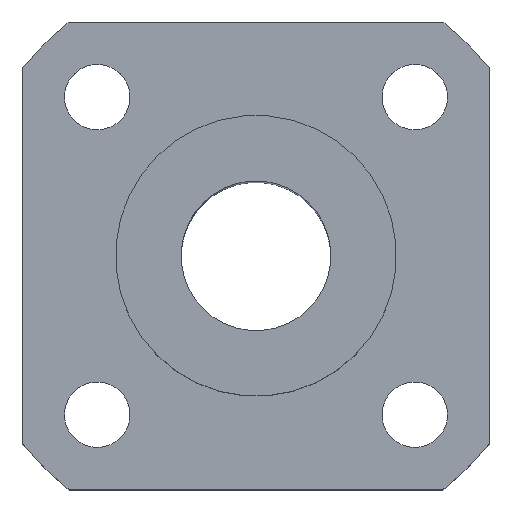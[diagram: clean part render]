
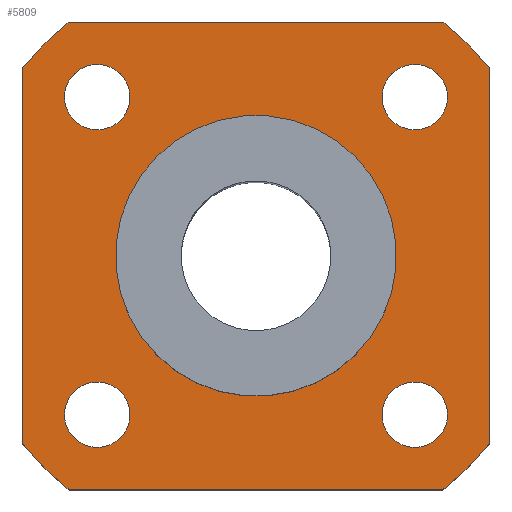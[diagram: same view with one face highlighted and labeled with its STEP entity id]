
A CAD part, top view. The second image highlights one B-rep face of the part: STEP entity #5809.
In plain terms, the highlighted planar face has unit normal (0, 0, 1).
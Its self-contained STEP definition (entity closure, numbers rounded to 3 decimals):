
#113=CIRCLE('',#6162,16.);
#114=CIRCLE('',#6164,16.);
#115=CIRCLE('',#6166,16.);
#125=CIRCLE('',#6182,7.5);
#129=CIRCLE('',#6190,16.);
#130=CIRCLE('',#6192,1.75);
#131=CIRCLE('',#6193,1.75);
#132=CIRCLE('',#6194,1.75);
#133=CIRCLE('',#6195,1.75);
#559=ORIENTED_EDGE('',*,*,#2226,.F.);
#560=ORIENTED_EDGE('',*,*,#2225,.T.);
#561=ORIENTED_EDGE('',*,*,#2227,.F.);
#562=ORIENTED_EDGE('',*,*,#2205,.T.);
#563=ORIENTED_EDGE('',*,*,#2228,.F.);
#564=ORIENTED_EDGE('',*,*,#2209,.T.);
#565=ORIENTED_EDGE('',*,*,#2229,.F.);
#566=ORIENTED_EDGE('',*,*,#2202,.T.);
#567=ORIENTED_EDGE('',*,*,#2230,.F.);
#568=ORIENTED_EDGE('',*,*,#2231,.F.);
#569=ORIENTED_EDGE('',*,*,#2232,.F.);
#570=ORIENTED_EDGE('',*,*,#2233,.F.);
#571=ORIENTED_EDGE('',*,*,#2219,.T.);
#2202=EDGE_CURVE('',#3040,#3039,#113,.T.);
#2205=EDGE_CURVE('',#3042,#3041,#114,.T.);
#2209=EDGE_CURVE('',#3043,#3044,#115,.T.);
#2219=EDGE_CURVE('',#3054,#3054,#125,.F.);
#2225=EDGE_CURVE('',#3058,#3059,#129,.T.);
#2226=EDGE_CURVE('',#3058,#3039,#3552,.T.);
#2227=EDGE_CURVE('',#3042,#3059,#3553,.T.);
#2228=EDGE_CURVE('',#3043,#3041,#3554,.T.);
#2229=EDGE_CURVE('',#3040,#3044,#3555,.T.);
#2230=EDGE_CURVE('',#3060,#3060,#130,.T.);
#2231=EDGE_CURVE('',#3061,#3061,#131,.T.);
#2232=EDGE_CURVE('',#3062,#3062,#132,.T.);
#2233=EDGE_CURVE('',#3063,#3063,#133,.T.);
#3039=VERTEX_POINT('',#9133);
#3040=VERTEX_POINT('',#9135);
#3041=VERTEX_POINT('',#9139);
#3042=VERTEX_POINT('',#9141);
#3043=VERTEX_POINT('',#9145);
#3044=VERTEX_POINT('',#9147);
#3054=VERTEX_POINT('',#9174);
#3058=VERTEX_POINT('',#9186);
#3059=VERTEX_POINT('',#9188);
#3060=VERTEX_POINT('',#9196);
#3061=VERTEX_POINT('',#9198);
#3062=VERTEX_POINT('',#9200);
#3063=VERTEX_POINT('',#9202);
#3552=LINE('',#9191,#4226);
#3553=LINE('',#9192,#4227);
#3554=LINE('',#9193,#4228);
#3555=LINE('',#9194,#4229);
#4226=VECTOR('',#6751,1000.);
#4227=VECTOR('',#6752,1000.);
#4228=VECTOR('',#6753,1000.);
#4229=VECTOR('',#6754,1000.);
#4762=EDGE_LOOP('',(#559,#560,#561,#562,#563,#564,#565,#566));
#4763=EDGE_LOOP('',(#567));
#4764=EDGE_LOOP('',(#568));
#4765=EDGE_LOOP('',(#569));
#4766=EDGE_LOOP('',(#570));
#4767=EDGE_LOOP('',(#571));
#5182=FACE_BOUND('',#4762,.T.);
#5183=FACE_BOUND('',#4763,.T.);
#5184=FACE_BOUND('',#4764,.T.);
#5185=FACE_BOUND('',#4765,.T.);
#5186=FACE_BOUND('',#4766,.T.);
#5187=FACE_BOUND('',#4767,.T.);
#5543=PLANE('',#6191);
#5809=ADVANCED_FACE('',(#5182,#5183,#5184,#5185,#5186,#5187),#5543,.T.);
#6162=AXIS2_PLACEMENT_3D('',#9134,#6684,#6685);
#6164=AXIS2_PLACEMENT_3D('',#9140,#6690,#6691);
#6166=AXIS2_PLACEMENT_3D('',#9148,#6697,#6698);
#6182=AXIS2_PLACEMENT_3D('',#9173,#6729,#6730);
#6190=AXIS2_PLACEMENT_3D('',#9189,#6747,#6748);
#6191=AXIS2_PLACEMENT_3D('',#9190,#6749,#6750);
#6192=AXIS2_PLACEMENT_3D('',#9195,#6755,#6756);
#6193=AXIS2_PLACEMENT_3D('',#9197,#6757,#6758);
#6194=AXIS2_PLACEMENT_3D('',#9199,#6759,#6760);
#6195=AXIS2_PLACEMENT_3D('',#9201,#6761,#6762);
#6684=DIRECTION('',(0.,0.,1.));
#6685=DIRECTION('',(0.707,-0.707,0.));
#6690=DIRECTION('',(0.,0.,1.));
#6691=DIRECTION('',(0.707,-0.707,0.));
#6697=DIRECTION('',(0.,0.,1.));
#6698=DIRECTION('',(0.707,-0.707,0.));
#6729=DIRECTION('',(0.,0.,1.));
#6730=DIRECTION('',(0.707,-0.707,0.));
#6747=DIRECTION('',(0.,0.,1.));
#6748=DIRECTION('',(0.707,-0.707,0.));
#6749=DIRECTION('',(0.,0.,1.));
#6750=DIRECTION('',(0.707,-0.707,0.));
#6751=DIRECTION('',(1.,0.,0.));
#6752=DIRECTION('',(0.,1.,0.));
#6753=DIRECTION('',(-1.,0.,0.));
#6754=DIRECTION('',(0.,-1.,0.));
#6755=DIRECTION('',(0.,0.,1.));
#6756=DIRECTION('',(0.707,-0.707,0.));
#6757=DIRECTION('',(0.,0.,1.));
#6758=DIRECTION('',(0.707,-0.707,0.));
#6759=DIRECTION('',(0.,0.,1.));
#6760=DIRECTION('',(0.707,-0.707,0.));
#6761=DIRECTION('',(0.,0.,1.));
#6762=DIRECTION('',(0.707,-0.707,0.));
#9133=CARTESIAN_POINT('',(9.987,12.5,0.));
#9134=CARTESIAN_POINT('',(0.,0.,0.));
#9135=CARTESIAN_POINT('',(12.5,9.987,0.));
#9139=CARTESIAN_POINT('',(-9.987,-12.5,0.));
#9140=CARTESIAN_POINT('',(0.,0.,0.));
#9141=CARTESIAN_POINT('',(-12.5,-9.987,0.));
#9145=CARTESIAN_POINT('',(9.987,-12.5,0.));
#9147=CARTESIAN_POINT('',(12.5,-9.987,0.));
#9148=CARTESIAN_POINT('',(0.,0.,0.));
#9173=CARTESIAN_POINT('',(0.,0.,0.));
#9174=CARTESIAN_POINT('',(5.303,-5.303,0.));
#9186=CARTESIAN_POINT('',(-9.987,12.5,0.));
#9188=CARTESIAN_POINT('',(-12.5,9.987,0.));
#9189=CARTESIAN_POINT('',(0.,0.,0.));
#9190=CARTESIAN_POINT('',(0.,0.,0.));
#9191=CARTESIAN_POINT('',(-9.987,12.5,0.));
#9192=CARTESIAN_POINT('',(-12.5,9.987,0.));
#9193=CARTESIAN_POINT('',(-9.987,-12.5,0.));
#9194=CARTESIAN_POINT('',(12.5,-9.987,0.));
#9195=CARTESIAN_POINT('',(8.485,8.485,0.));
#9196=CARTESIAN_POINT('',(9.723,7.248,0.));
#9197=CARTESIAN_POINT('',(-8.485,8.485,0.));
#9198=CARTESIAN_POINT('',(-7.248,7.248,0.));
#9199=CARTESIAN_POINT('',(-8.485,-8.485,0.));
#9200=CARTESIAN_POINT('',(-7.248,-9.723,0.));
#9201=CARTESIAN_POINT('',(8.485,-8.485,0.));
#9202=CARTESIAN_POINT('',(9.723,-9.723,0.));
